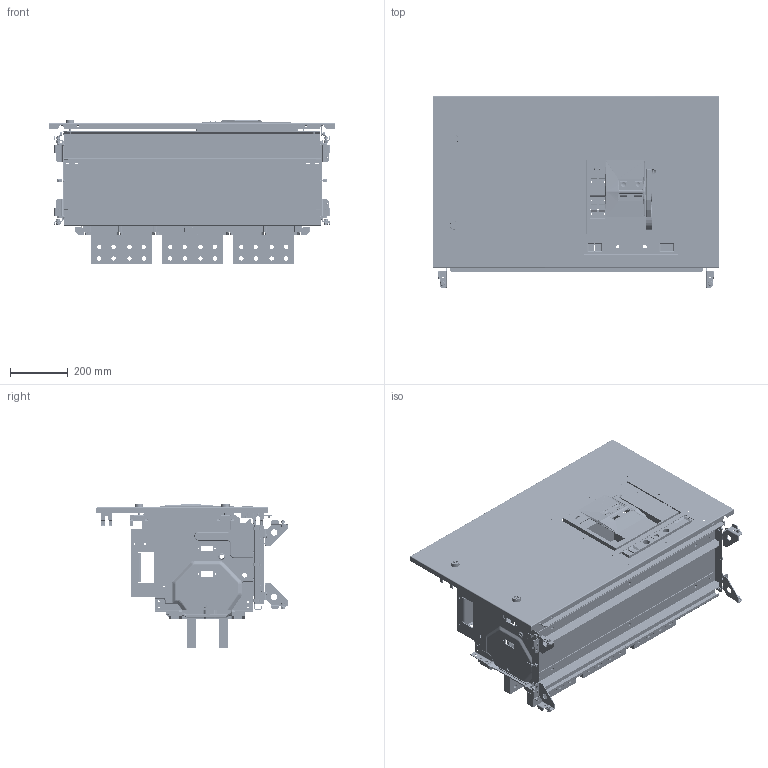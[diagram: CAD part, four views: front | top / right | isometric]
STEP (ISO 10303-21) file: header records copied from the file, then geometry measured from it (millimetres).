
FILE_DESCRIPTION(('CAx-IF Rec.Pracs.---Model Styling and Organization---1.2---2011-12-15','CAx-IF Rec.Pracs.---Geometric and Assembly Validation Properties---4.1---2014-06-16','CAx-IF Rec.Pracs.---PMI Polyline Presentation---2.0---2013-05-24'),'2;1');
FILE_NAME('R5PKEB7V11526.stp','2021-07-29T02:15:48+03:00',(''),(''),'STEP Interface 4.4 by CT CoreTechnologie','3D_Evolution4.4 by CT CoreTechnologie','');
FILE_SCHEMA(('AUTOMOTIVE_DESIGN { 1 0 10303 214 1 1 1 1 }'));
Length unit declared in the file: millimetre
Products named in the file (1): R5PKEB7V11526
Bounding box: 994 x 662.5 x 501 mm (x, y, z)
Surface area: 6989806.9 mm2 (no closed solid volume)
Topology: 0 solids, 141 shells, 8865 faces, 24574 edges, 15583 vertices
Faces by surface type: plane 4630, cylinder 3286, bspline 949
Entity records: 305804 total; most frequent: CARTESIAN_POINT 78700, ORIENTED_EDGE 48480, DIRECTION 46119, EDGE_CURVE 24288, VECTOR 16353, LINE 16353, VERTEX_POINT 15571, AXIS2_PLACEMENT_3D 14883
